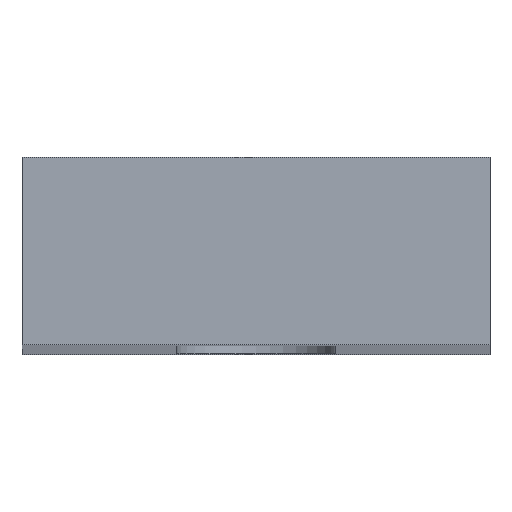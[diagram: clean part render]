
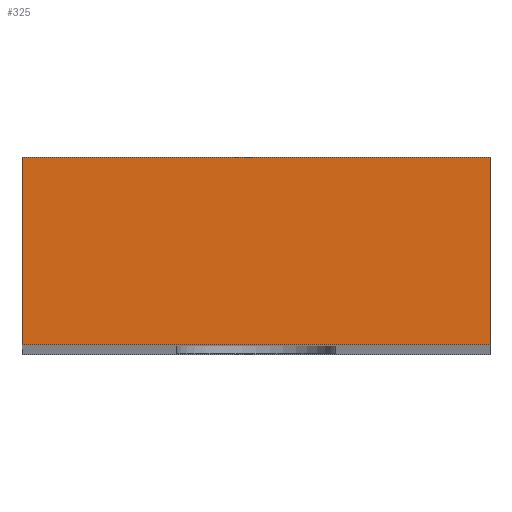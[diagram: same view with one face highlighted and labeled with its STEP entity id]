
A CAD part, top view. The second image highlights one B-rep face of the part: STEP entity #325.
In plain terms, the highlighted planar face has unit normal (0, 0, 1).
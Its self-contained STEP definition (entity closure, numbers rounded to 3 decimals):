
#24 = VERTEX_POINT('',#25);
#25 = CARTESIAN_POINT('',(35.,-22.,60.));
#32 = PLANE('',#33);
#33 = AXIS2_PLACEMENT_3D('',#34,#35,#36);
#34 = CARTESIAN_POINT('',(35.,-22.,-60.));
#35 = DIRECTION('',(1.,0.,0.));
#36 = DIRECTION('',(0.,0.,1.));
#44 = PLANE('',#45);
#45 = AXIS2_PLACEMENT_3D('',#46,#47,#48);
#46 = CARTESIAN_POINT('',(35.,-22.,-60.));
#47 = DIRECTION('',(0.,1.,0.));
#48 = DIRECTION('',(0.,0.,1.));
#85 = VERTEX_POINT('',#86);
#86 = CARTESIAN_POINT('',(35.,-18.,60.));
#100 = PLANE('',#101);
#101 = AXIS2_PLACEMENT_3D('',#102,#103,#104);
#102 = CARTESIAN_POINT('',(35.,-18.,-60.));
#103 = DIRECTION('',(0.,1.,0.));
#104 = DIRECTION('',(0.,0.,1.));
#112 = EDGE_CURVE('',#24,#85,#113,.T.);
#113 = SURFACE_CURVE('',#114,(#118,#125),.PCURVE_S1.);
#114 = LINE('',#115,#116);
#115 = CARTESIAN_POINT('',(35.,-22.,60.));
#116 = VECTOR('',#117,1.);
#117 = DIRECTION('',(0.,1.,0.));
#118 = PCURVE('',#32,#119);
#119 = DEFINITIONAL_REPRESENTATION('',(#120),#124);
#120 = LINE('',#121,#122);
#121 = CARTESIAN_POINT('',(120.,0.));
#122 = VECTOR('',#123,1.);
#123 = DIRECTION('',(0.,-1.));
#124 = ( GEOMETRIC_REPRESENTATION_CONTEXT(2) 
PARAMETRIC_REPRESENTATION_CONTEXT() REPRESENTATION_CONTEXT('2D SPACE',''
  ) );
#125 = PCURVE('',#126,#131);
#126 = PLANE('',#127);
#127 = AXIS2_PLACEMENT_3D('',#128,#129,#130);
#128 = CARTESIAN_POINT('',(35.,-22.,60.));
#129 = DIRECTION('',(0.,0.,1.));
#130 = DIRECTION('',(1.,0.,0.));
#131 = DEFINITIONAL_REPRESENTATION('',(#132),#136);
#132 = LINE('',#133,#134);
#133 = CARTESIAN_POINT('',(0.,0.));
#134 = VECTOR('',#135,1.);
#135 = DIRECTION('',(0.,1.));
#136 = ( GEOMETRIC_REPRESENTATION_CONTEXT(2) 
PARAMETRIC_REPRESENTATION_CONTEXT() REPRESENTATION_CONTEXT('2D SPACE',''
  ) );
#165 = EDGE_CURVE('',#24,#166,#168,.T.);
#166 = VERTEX_POINT('',#167);
#167 = CARTESIAN_POINT('',(45.,-22.,60.));
#168 = SURFACE_CURVE('',#169,(#173,#180),.PCURVE_S1.);
#169 = LINE('',#170,#171);
#170 = CARTESIAN_POINT('',(35.,-22.,60.));
#171 = VECTOR('',#172,1.);
#172 = DIRECTION('',(1.,0.,0.));
#173 = PCURVE('',#44,#174);
#174 = DEFINITIONAL_REPRESENTATION('',(#175),#179);
#175 = LINE('',#176,#177);
#176 = CARTESIAN_POINT('',(120.,0.));
#177 = VECTOR('',#178,1.);
#178 = DIRECTION('',(0.,1.));
#179 = ( GEOMETRIC_REPRESENTATION_CONTEXT(2) 
PARAMETRIC_REPRESENTATION_CONTEXT() REPRESENTATION_CONTEXT('2D SPACE',''
  ) );
#180 = PCURVE('',#126,#181);
#181 = DEFINITIONAL_REPRESENTATION('',(#182),#186);
#182 = LINE('',#183,#184);
#183 = CARTESIAN_POINT('',(0.,0.));
#184 = VECTOR('',#185,1.);
#185 = DIRECTION('',(1.,0.));
#186 = ( GEOMETRIC_REPRESENTATION_CONTEXT(2) 
PARAMETRIC_REPRESENTATION_CONTEXT() REPRESENTATION_CONTEXT('2D SPACE',''
  ) );
#202 = PLANE('',#203);
#203 = AXIS2_PLACEMENT_3D('',#204,#205,#206);
#204 = CARTESIAN_POINT('',(45.,-22.,-60.));
#205 = DIRECTION('',(1.,0.,0.));
#206 = DIRECTION('',(0.,0.,1.));
#325 = ADVANCED_FACE('',(#326),#126,.T.);
#326 = FACE_BOUND('',#327,.T.);
#327 = EDGE_LOOP('',(#328,#329,#330,#353));
#328 = ORIENTED_EDGE('',*,*,#112,.F.);
#329 = ORIENTED_EDGE('',*,*,#165,.T.);
#330 = ORIENTED_EDGE('',*,*,#331,.T.);
#331 = EDGE_CURVE('',#166,#332,#334,.T.);
#332 = VERTEX_POINT('',#333);
#333 = CARTESIAN_POINT('',(45.,-18.,60.));
#334 = SURFACE_CURVE('',#335,(#339,#346),.PCURVE_S1.);
#335 = LINE('',#336,#337);
#336 = CARTESIAN_POINT('',(45.,-22.,60.));
#337 = VECTOR('',#338,1.);
#338 = DIRECTION('',(0.,1.,0.));
#339 = PCURVE('',#126,#340);
#340 = DEFINITIONAL_REPRESENTATION('',(#341),#345);
#341 = LINE('',#342,#343);
#342 = CARTESIAN_POINT('',(10.,0.));
#343 = VECTOR('',#344,1.);
#344 = DIRECTION('',(0.,1.));
#345 = ( GEOMETRIC_REPRESENTATION_CONTEXT(2) 
PARAMETRIC_REPRESENTATION_CONTEXT() REPRESENTATION_CONTEXT('2D SPACE',''
  ) );
#346 = PCURVE('',#202,#347);
#347 = DEFINITIONAL_REPRESENTATION('',(#348),#352);
#348 = LINE('',#349,#350);
#349 = CARTESIAN_POINT('',(120.,0.));
#350 = VECTOR('',#351,1.);
#351 = DIRECTION('',(0.,-1.));
#352 = ( GEOMETRIC_REPRESENTATION_CONTEXT(2) 
PARAMETRIC_REPRESENTATION_CONTEXT() REPRESENTATION_CONTEXT('2D SPACE',''
  ) );
#353 = ORIENTED_EDGE('',*,*,#354,.F.);
#354 = EDGE_CURVE('',#85,#332,#355,.T.);
#355 = SURFACE_CURVE('',#356,(#360,#367),.PCURVE_S1.);
#356 = LINE('',#357,#358);
#357 = CARTESIAN_POINT('',(35.,-18.,60.));
#358 = VECTOR('',#359,1.);
#359 = DIRECTION('',(1.,0.,0.));
#360 = PCURVE('',#126,#361);
#361 = DEFINITIONAL_REPRESENTATION('',(#362),#366);
#362 = LINE('',#363,#364);
#363 = CARTESIAN_POINT('',(0.,4.));
#364 = VECTOR('',#365,1.);
#365 = DIRECTION('',(1.,0.));
#366 = ( GEOMETRIC_REPRESENTATION_CONTEXT(2) 
PARAMETRIC_REPRESENTATION_CONTEXT() REPRESENTATION_CONTEXT('2D SPACE',''
  ) );
#367 = PCURVE('',#100,#368);
#368 = DEFINITIONAL_REPRESENTATION('',(#369),#373);
#369 = LINE('',#370,#371);
#370 = CARTESIAN_POINT('',(120.,0.));
#371 = VECTOR('',#372,1.);
#372 = DIRECTION('',(0.,1.));
#373 = ( GEOMETRIC_REPRESENTATION_CONTEXT(2) 
PARAMETRIC_REPRESENTATION_CONTEXT() REPRESENTATION_CONTEXT('2D SPACE',''
  ) );
